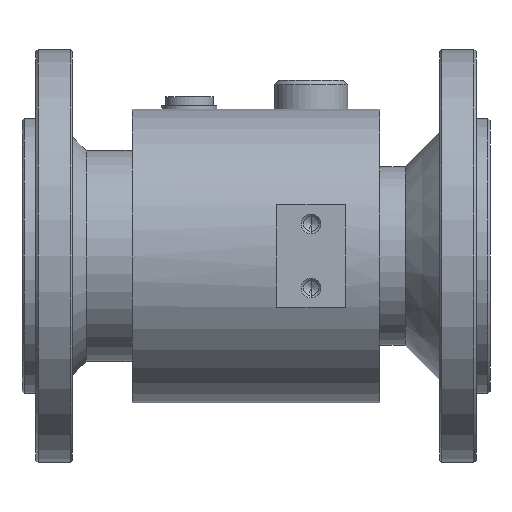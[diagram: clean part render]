
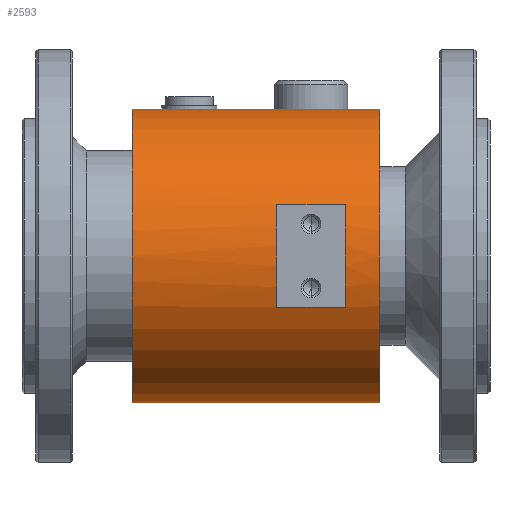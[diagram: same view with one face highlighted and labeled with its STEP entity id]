
A CAD part, front view. The second image highlights one B-rep face of the part: STEP entity #2593.
In plain terms, the highlighted cylindrical face has radius 32 mm (diameter 64 mm), a partial arc.
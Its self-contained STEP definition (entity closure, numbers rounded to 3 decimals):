
#139 = DIRECTION ( 'NONE',  ( 1., 0., 0. ) ) ;
#1384 = EDGE_CURVE ( 'NONE', #13267, #14004, #6656, .T. ) ;
#1462 = ORIENTED_EDGE ( 'NONE', *, *, #1815, .F. ) ;
#1541 = DIRECTION ( 'NONE',  ( 0., 0., -1. ) ) ;
#1815 = EDGE_CURVE ( 'NONE', #8202, #3033, #4744, .T. ) ;
#2098 = CIRCLE ( 'NONE', #10397, 32. ) ;
#2326 = VERTEX_POINT ( 'NONE', #4258 ) ;
#2517 = EDGE_LOOP ( 'NONE', ( #12787, #8975, #4837, #14291 ) ) ;
#2593 = ADVANCED_FACE ( 'NONE', ( #2833, #4021 ), #10924, .T. ) ;
#2679 = DIRECTION ( 'NONE',  ( 1., 0., 0. ) ) ;
#2833 = FACE_OUTER_BOUND ( 'NONE', #9664, .T. ) ;
#3033 = VERTEX_POINT ( 'NONE', #8660 ) ;
#3459 = CARTESIAN_POINT ( 'NONE',  ( 0., -30., -11.136 ) ) ;
#3721 = DIRECTION ( 'NONE',  ( 1., 0., 0. ) ) ;
#3798 = DIRECTION ( 'NONE',  ( 0., 0., -1. ) ) ;
#3907 = CARTESIAN_POINT ( 'NONE',  ( 46.5, -30., -11.136 ) ) ;
#4021 = FACE_BOUND ( 'NONE', #2517, .T. ) ;
#4258 = CARTESIAN_POINT ( 'NONE',  ( 31.5, -30., -11.136 ) ) ;
#4382 = AXIS2_PLACEMENT_3D ( 'NONE', #9689, #3721, #7447 ) ;
#4671 = CARTESIAN_POINT ( 'NONE',  ( 0., 0., 32. ) ) ;
#4744 = LINE ( 'NONE', #4671, #5503 ) ;
#4837 = ORIENTED_EDGE ( 'NONE', *, *, #12222, .F. ) ;
#5028 = ORIENTED_EDGE ( 'NONE', *, *, #6934, .T. ) ;
#5160 = VERTEX_POINT ( 'NONE', #8995 ) ;
#5356 = VECTOR ( 'NONE', #139, 1000. ) ;
#5445 = EDGE_CURVE ( 'NONE', #14004, #2326, #2098, .T. ) ;
#5503 = VECTOR ( 'NONE', #10293, 1000. ) ;
#6041 = CIRCLE ( 'NONE', #4382, 32. ) ;
#6136 = ORIENTED_EDGE ( 'NONE', *, *, #6836, .T. ) ;
#6243 = LINE ( 'NONE', #8349, #11295 ) ;
#6656 = LINE ( 'NONE', #13527, #10088 ) ;
#6836 = EDGE_CURVE ( 'NONE', #5160, #12770, #6243, .T. ) ;
#6934 = EDGE_CURVE ( 'NONE', #8202, #5160, #7967, .T. ) ;
#6976 = CARTESIAN_POINT ( 'NONE',  ( 54., 0., -32. ) ) ;
#7181 = DIRECTION ( 'NONE',  ( 0., 0., -1. ) ) ;
#7447 = DIRECTION ( 'NONE',  ( 0., 0., -1. ) ) ;
#7960 = AXIS2_PLACEMENT_3D ( 'NONE', #10851, #13012, #3798 ) ;
#7967 = CIRCLE ( 'NONE', #14172, 32. ) ;
#8143 = AXIS2_PLACEMENT_3D ( 'NONE', #8541, #2679, #7181 ) ;
#8202 = VERTEX_POINT ( 'NONE', #10195 ) ;
#8349 = CARTESIAN_POINT ( 'NONE',  ( 0., 0., -32. ) ) ;
#8541 = CARTESIAN_POINT ( 'NONE',  ( 0., 0., 0. ) ) ;
#8660 = CARTESIAN_POINT ( 'NONE',  ( 54., 0., 32. ) ) ;
#8825 = DIRECTION ( 'NONE',  ( 1., 0., 0. ) ) ;
#8975 = ORIENTED_EDGE ( 'NONE', *, *, #1384, .F. ) ;
#8995 = CARTESIAN_POINT ( 'NONE',  ( 0., 0., -32. ) ) ;
#9664 = EDGE_LOOP ( 'NONE', ( #1462, #5028, #6136, #14036 ) ) ;
#9689 = CARTESIAN_POINT ( 'NONE',  ( 54., 0., 0. ) ) ;
#9874 = CIRCLE ( 'NONE', #7960, 32. ) ;
#10088 = VECTOR ( 'NONE', #13377, 1000. ) ;
#10195 = CARTESIAN_POINT ( 'NONE',  ( 0., 0., 32. ) ) ;
#10293 = DIRECTION ( 'NONE',  ( 1., 0., 0. ) ) ;
#10397 = AXIS2_PLACEMENT_3D ( 'NONE', #11196, #8825, #14568 ) ;
#10851 = CARTESIAN_POINT ( 'NONE',  ( 46.5, 0., 0. ) ) ;
#10924 = CYLINDRICAL_SURFACE ( 'NONE', #8143, 32. ) ;
#10991 = CARTESIAN_POINT ( 'NONE',  ( 46.5, -30., 11.136 ) ) ;
#11196 = CARTESIAN_POINT ( 'NONE',  ( 31.5, 0., 0. ) ) ;
#11234 = EDGE_CURVE ( 'NONE', #3033, #12770, #6041, .T. ) ;
#11295 = VECTOR ( 'NONE', #11774, 1000. ) ;
#11696 = DIRECTION ( 'NONE',  ( 1., 0., 0. ) ) ;
#11774 = DIRECTION ( 'NONE',  ( 1., 0., 0. ) ) ;
#12222 = EDGE_CURVE ( 'NONE', #14574, #13267, #9874, .T. ) ;
#12770 = VERTEX_POINT ( 'NONE', #6976 ) ;
#12787 = ORIENTED_EDGE ( 'NONE', *, *, #5445, .F. ) ;
#12817 = CARTESIAN_POINT ( 'NONE',  ( 0., 0., 0. ) ) ;
#13012 = DIRECTION ( 'NONE',  ( -1., 0., 0. ) ) ;
#13267 = VERTEX_POINT ( 'NONE', #10991 ) ;
#13377 = DIRECTION ( 'NONE',  ( -1., 0., 0. ) ) ;
#13527 = CARTESIAN_POINT ( 'NONE',  ( 0., -30., 11.136 ) ) ;
#13634 = LINE ( 'NONE', #3459, #5356 ) ;
#13734 = EDGE_CURVE ( 'NONE', #2326, #14574, #13634, .T. ) ;
#13757 = CARTESIAN_POINT ( 'NONE',  ( 31.5, -30., 11.136 ) ) ;
#14004 = VERTEX_POINT ( 'NONE', #13757 ) ;
#14036 = ORIENTED_EDGE ( 'NONE', *, *, #11234, .F. ) ;
#14172 = AXIS2_PLACEMENT_3D ( 'NONE', #12817, #11696, #1541 ) ;
#14291 = ORIENTED_EDGE ( 'NONE', *, *, #13734, .F. ) ;
#14568 = DIRECTION ( 'NONE',  ( 0., -1., 0. ) ) ;
#14574 = VERTEX_POINT ( 'NONE', #3907 ) ;
